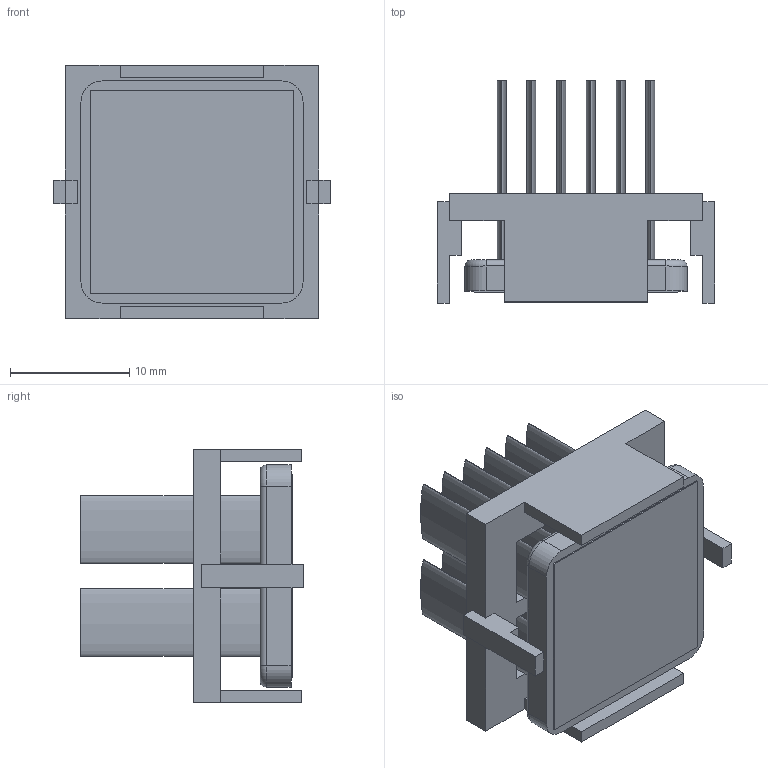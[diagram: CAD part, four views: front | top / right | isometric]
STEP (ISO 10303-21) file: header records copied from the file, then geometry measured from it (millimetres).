
FILE_DESCRIPTION (( 'STEP AP214' ), '1' );
FILE_NAME ('INM19001-18W-2.6O.STEP', '2023-03-02T18:17:49', ( '' ), ( '' ), 'SwSTEP 2.0', 'SolidWorks 2020', '' );
FILE_SCHEMA (( 'AUTOMOTIVE_DESIGN' ));
Length unit declared in the file: millimetre
Products named in the file (1): INM19001-18W-2.6O
Bounding box: 23.2 x 18.6 x 21.2 mm (x, y, z)
Volume: 2378.5 mm3; surface area: 4939.6 mm2
Topology: 3 solids, 3 shells, 106 faces, 256 edges, 168 vertices
Faces by surface type: plane 70, bspline 24, cylinder 8, torus 4
Entity records: 4330 total; most frequent: CARTESIAN_POINT 843, ORIENTED_EDGE 512, DIRECTION 394, EDGE_CURVE 256, LINE 188, VECTOR 188, VERTEX_POINT 168, EDGE_LOOP 120
